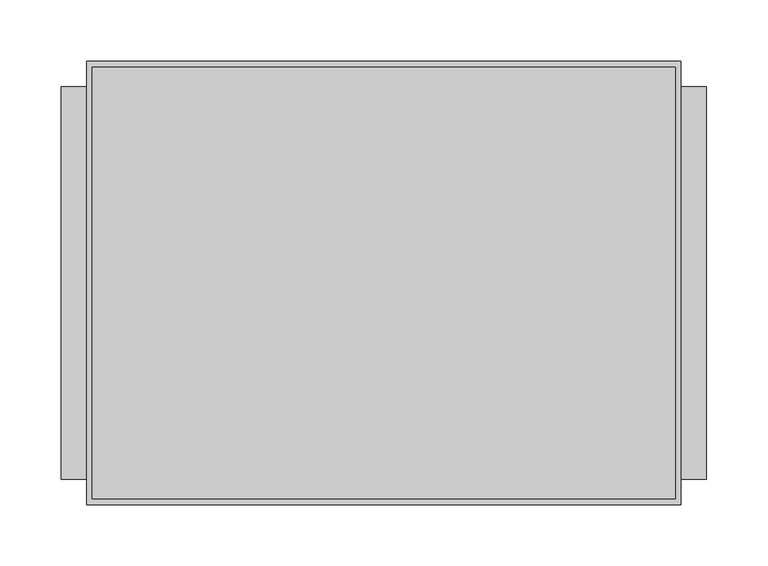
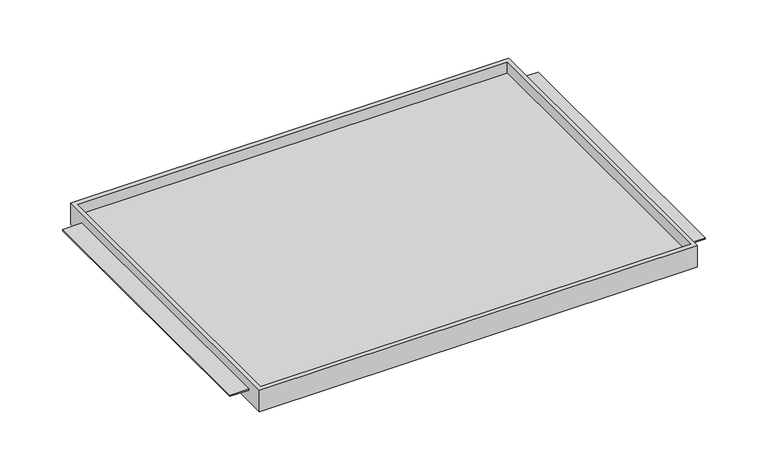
"""IFC4 building model written with IfcOpenShell, lengths in millimetres: furniture geometry."""

from ifc_helpers import new_model, si_unit, origin, place, context, project, spatial, faceted_brep, source, transform, mapped, element, save


def furniture_4fdc6e53(model_context):
    return source(origin(), model_context, "Body", "Brep", [
        faceted_brep([(-242.7689646, -180.975, 1282.7889), (242.7689646, -180.975, 1282.7889), (242.7689646, -180.975, 1308.1889), (-242.7689646, -180.975, 1308.1889), (-242.7689646, 180.975, 1282.7889), (-242.7689646, 180.975, 1308.1889), (242.7689646, 180.975, 1308.1889), (242.7689646, 180.975, 1282.7889), (242.7689646, -160.3374879, 1297.0891), (242.7689646, 160.3374879, 1297.0891), (242.7689646, 160.3374879, 1295.4889), (242.7689646, -160.3374879, 1295.4889), (238.125, -176.2125, 1308.1889), (-238.125, -176.2125, 1308.1889), (-238.125, 175.91278, 1308.1889), (238.125, 175.91278, 1308.1889), (-242.7689646, 160.3374879, 1297.0891), (-242.7689646, -160.3374879, 1297.0891), (-242.7689646, -160.3374879, 1295.4889), (-242.7689646, 160.3374879, 1295.4889), (-238.125, -176.2125, 1295.4889), (238.125, -176.2125, 1295.4889), (238.125, 175.91278, 1295.4889), (-238.125, 175.91278, 1295.4889), (-263.525, 160.3374879, 1297.0891), (-263.525, -160.3374879, 1297.0891), (263.525, -160.3374879, 1297.0891), (263.525, 160.3374879, 1297.0891), (-263.525, -160.3374879, 1295.4889), (-263.525, 160.3374879, 1295.4889), (263.525, -160.3374879, 1295.4889), (263.525, 160.3374879, 1295.4889)], [[[0, 1, 2, 3]], [[4, 5, 6, 7]], [[1, 0, 4, 7]], [[2, 1, 7, 6], [8, 9, 10, 11]], [[3, 2, 6, 5], [12, 13, 14, 15]], [[0, 3, 5, 4], [16, 17, 18, 19]], [[20, 21, 22, 23]], [[21, 20, 13, 12]], [[22, 21, 12, 15]], [[23, 22, 15, 14]], [[20, 23, 14, 13]], [[16, 24, 25, 17]], [[26, 27, 9, 8]], [[18, 28, 29, 19]], [[30, 11, 10, 31]], [[24, 16, 19, 29]], [[25, 24, 29, 28]], [[17, 25, 28, 18]], [[27, 26, 30, 31]], [[9, 27, 31, 10]], [[26, 8, 11, 30]]]),
    ])


if __name__ == "__main__":
    model = new_model("IFC4")
    model_context = context("Model", 3, world=origin())
    ifc_project = project(units=[si_unit("LENGTHUNIT", "METRE", prefix="MILLI")], contexts=[model_context])
    site = spatial("IfcSite", under=ifc_project)
    building = spatial("IfcBuilding", under=site)
    placement = place(None, origin())
    furniture_shape = furniture_4fdc6e53(model_context)
    element("IfcFurniture", 1, ObjectType="HermanMiller_CoStruc_CO203_CTrayShelf : 14\"D x 20\"W", at=placement, inside=building, context=model_context, shape_type="MappedRepresentation", body=[
        mapped(furniture_shape, transform((0.0, 0.0, 0.0), x_axis=(1.0, 0.0, 0.0), y_axis=(0.0, 1.0, 0.0), z_axis=(0.0, 0.0, 1.0))),
    ])
    save(model, "model.ifc")
